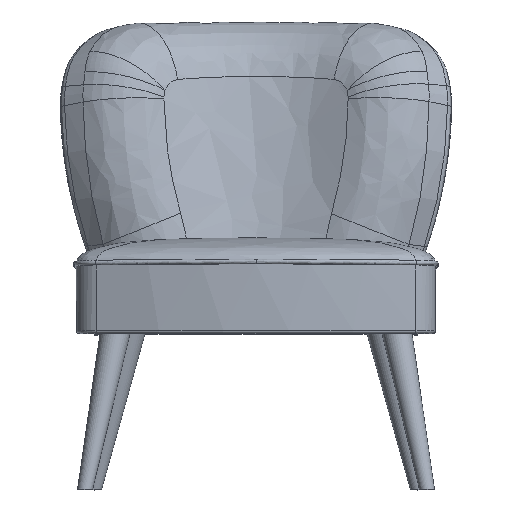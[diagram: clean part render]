
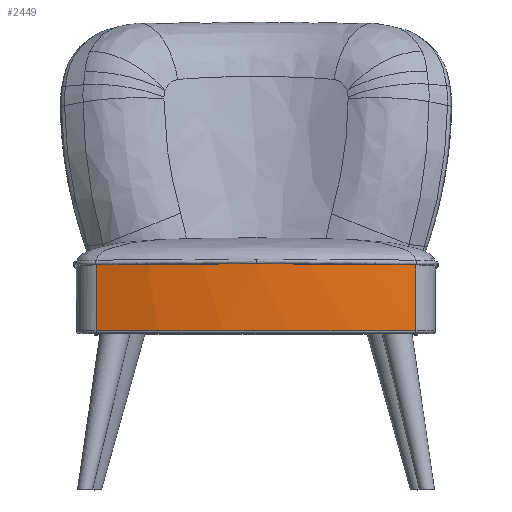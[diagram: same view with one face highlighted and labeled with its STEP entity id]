
A CAD part, top view. The second image highlights one B-rep face of the part: STEP entity #2449.
In plain terms, the highlighted cylindrical face has radius 780 mm (diameter 1560 mm), a partial arc.
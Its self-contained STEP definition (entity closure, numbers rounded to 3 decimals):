
#149 = EDGE_CURVE ( 'NONE', #22677, #821, #521, .T. ) ;
#283 = EDGE_CURVE ( 'NONE', #7090, #13663, #3736, .T. ) ;
#521 = LINE ( 'NONE', #13648, #12751 ) ;
#587 = CARTESIAN_POINT ( 'NONE',  ( -266.572, 374.36, -46.966 ) ) ;
#620 = DIRECTION ( 'NONE',  ( 0., -1., 0. ) ) ;
#821 = VERTEX_POINT ( 'NONE', #16673 ) ;
#972 = CARTESIAN_POINT ( 'NONE',  ( 266.557, 374.36, -46.96 ) ) ;
#1215 = DIRECTION ( 'NONE',  ( 0., 0., -1. ) ) ;
#1326 = VERTEX_POINT ( 'NONE', #16216 ) ;
#1471 = B_SPLINE_CURVE_WITH_KNOTS ( 'NONE', 3,
 ( #22502, #19019, #8947, #21340 ),
 .UNSPECIFIED., .F., .F.,
 ( 4, 4 ),
 ( 0., 0. ),
 .UNSPECIFIED. ) ;
#1477 = CARTESIAN_POINT ( 'NONE',  ( -157.602, 375.441, -16.004 ) ) ;
#1550 = CARTESIAN_POINT ( 'NONE',  ( -266.528, 374.36, -46.949 ) ) ;
#1555 = VERTEX_POINT ( 'NONE', #11865 ) ;
#1848 = VECTOR ( 'NONE', #620, 1000. ) ;
#2449 = ADVANCED_FACE ( 'NONE', ( #9109 ), #16588, .T. ) ;
#2653 = EDGE_CURVE ( 'NONE', #1555, #22677, #1471, .T. ) ;
#2964 = EDGE_CURVE ( 'NONE', #1326, #7090, #15517, .T. ) ;
#3032 = DIRECTION ( 'NONE',  ( 0., -1., 0. ) ) ;
#3162 = CARTESIAN_POINT ( 'NONE',  ( -179.735, 375.27, -20.906 ) ) ;
#3221 = EDGE_LOOP ( 'NONE', ( #16819, #6580, #19403, #18832, #20986, #8037, #13187 ) ) ;
#3239 = CARTESIAN_POINT ( 'NONE',  ( -207.168, 375.022, -27.994 ) ) ;
#3467 = CARTESIAN_POINT ( 'NONE',  ( 266.528, 374.36, -46.949 ) ) ;
#3736 = B_SPLINE_CURVE_WITH_KNOTS ( 'NONE', 3,
 ( #7731, #6095, #16630, #22045, #7876, #14854, #9670, #14784, #7653, #16554, #6017, #20203, #5942, #18337, #9592, #11394 ),
 .UNSPECIFIED., .F., .F.,
 ( 4, 2, 2, 2, 2, 2, 2, 4 ),
 ( 0., 0.068, 0.102, 0.136, 0.17, 0.204, 0.238, 0.272 ),
 .UNSPECIFIED. ) ;
#4413 = CARTESIAN_POINT ( 'NONE',  ( 0., 265., -780. ) ) ;
#4613 = CARTESIAN_POINT ( 'NONE',  ( 266.543, 374.36, -46.955 ) ) ;
#5259 = CARTESIAN_POINT ( 'NONE',  ( -79.209, 375.862, -3.949 ) ) ;
#5942 = CARTESIAN_POINT ( 'NONE',  ( 45.315, 375.957, -1.235 ) ) ;
#6017 = CARTESIAN_POINT ( 'NONE',  ( 79.208, 375.862, -3.949 ) ) ;
#6095 = CARTESIAN_POINT ( 'NONE',  ( 245.223, 374.631, -39.204 ) ) ;
#6580 = ORIENTED_EDGE ( 'NONE', *, *, #2653, .T. ) ;
#6740 = CARTESIAN_POINT ( 'NONE',  ( -212.625, 374.969, -29.518 ) ) ;
#6816 = CARTESIAN_POINT ( 'NONE',  ( -90.477, 375.819, -5.182 ) ) ;
#6974 = CARTESIAN_POINT ( 'NONE',  ( -245.144, 374.623, -39.438 ) ) ;
#7090 = VERTEX_POINT ( 'NONE', #3467 ) ;
#7653 = CARTESIAN_POINT ( 'NONE',  ( 112.951, 375.716, -8.138 ) ) ;
#7731 = CARTESIAN_POINT ( 'NONE',  ( 266.528, 374.36, -46.949 ) ) ;
#7846 = B_SPLINE_CURVE_WITH_KNOTS ( 'NONE', 3,
 ( #13940, #17488, #10382, #5259, #6816, #10467, #8597, #13785, #1477, #3162, #20978, #3239, #6740, #22760, #17641, #6974, #12176, #1550 ),
 .UNSPECIFIED., .F., .F.,
 ( 4, 2, 2, 2, 2, 2, 2, 2, 4 ),
 ( 0., 0.068, 0.102, 0.136, 0.17, 0.204, 0.221, 0.238, 0.272 ),
 .UNSPECIFIED. ) ;
#7876 = CARTESIAN_POINT ( 'NONE',  ( 179.732, 375.27, -20.905 ) ) ;
#8037 = ORIENTED_EDGE ( 'NONE', *, *, #2964, .T. ) ;
#8261 = DIRECTION ( 'NONE',  ( 0., -1., 0. ) ) ;
#8281 = VERTEX_POINT ( 'NONE', #17637 ) ;
#8597 = CARTESIAN_POINT ( 'NONE',  ( -124.155, 375.656, -9.861 ) ) ;
#8947 = CARTESIAN_POINT ( 'NONE',  ( -266.557, 374.36, -46.96 ) ) ;
#9109 = FACE_OUTER_BOUND ( 'NONE', #3221, .T. ) ;
#9474 = EDGE_CURVE ( 'NONE', #1326, #8281, #18744, .T. ) ;
#9592 = CARTESIAN_POINT ( 'NONE',  ( 11.335, 376., 0. ) ) ;
#9670 = CARTESIAN_POINT ( 'NONE',  ( 146.478, 375.518, -13.793 ) ) ;
#10382 = CARTESIAN_POINT ( 'NONE',  ( -45.335, 375.965, -0.989 ) ) ;
#10467 = CARTESIAN_POINT ( 'NONE',  ( -112.953, 375.716, -8.139 ) ) ;
#11394 = CARTESIAN_POINT ( 'NONE',  ( 0., 376., 0. ) ) ;
#11865 = CARTESIAN_POINT ( 'NONE',  ( -266.528, 374.36, -46.949 ) ) ;
#12176 = CARTESIAN_POINT ( 'NONE',  ( -255.875, 374.495, -43.076 ) ) ;
#12751 = VECTOR ( 'NONE', #3032, 1000. ) ;
#13187 = ORIENTED_EDGE ( 'NONE', *, *, #283, .T. ) ;
#13648 = CARTESIAN_POINT ( 'NONE',  ( -266.572, 1718.723, -46.966 ) ) ;
#13663 = VERTEX_POINT ( 'NONE', #18313 ) ;
#13785 = CARTESIAN_POINT ( 'NONE',  ( -146.482, 375.518, -13.794 ) ) ;
#13938 = EDGE_CURVE ( 'NONE', #821, #8281, #22386, .T. ) ;
#13940 = CARTESIAN_POINT ( 'NONE',  ( 0., 376., 0. ) ) ;
#14489 = CARTESIAN_POINT ( 'NONE',  ( 266.572, 1718.723, -46.966 ) ) ;
#14547 = EDGE_CURVE ( 'NONE', #13663, #1555, #7846, .T. ) ;
#14784 = CARTESIAN_POINT ( 'NONE',  ( 124.156, 375.656, -9.861 ) ) ;
#14854 = CARTESIAN_POINT ( 'NONE',  ( 157.6, 375.441, -16.003 ) ) ;
#15144 = CARTESIAN_POINT ( 'NONE',  ( 266.528, 374.36, -46.949 ) ) ;
#15517 = B_SPLINE_CURVE_WITH_KNOTS ( 'NONE', 3,
 ( #16771, #972, #4613, #15144 ),
 .UNSPECIFIED., .F., .F.,
 ( 4, 4 ),
 ( 0., 0. ),
 .UNSPECIFIED. ) ;
#15612 = CARTESIAN_POINT ( 'NONE',  ( 0., 1718.723, -780. ) ) ;
#16216 = CARTESIAN_POINT ( 'NONE',  ( 266.572, 374.36, -46.966 ) ) ;
#16554 = CARTESIAN_POINT ( 'NONE',  ( 90.478, 375.819, -5.183 ) ) ;
#16588 = CYLINDRICAL_SURFACE ( 'NONE', #17993, 780. ) ;
#16630 = CARTESIAN_POINT ( 'NONE',  ( 223.587, 374.869, -32.389 ) ) ;
#16673 = CARTESIAN_POINT ( 'NONE',  ( -266.572, 265., -46.966 ) ) ;
#16771 = CARTESIAN_POINT ( 'NONE',  ( 266.572, 374.36, -46.966 ) ) ;
#16795 = DIRECTION ( 'NONE',  ( 0., 0., -1. ) ) ;
#16819 = ORIENTED_EDGE ( 'NONE', *, *, #14547, .T. ) ;
#17211 = AXIS2_PLACEMENT_3D ( 'NONE', #4413, #20448, #16795 ) ;
#17488 = CARTESIAN_POINT ( 'NONE',  ( -22.671, 376., 0. ) ) ;
#17637 = CARTESIAN_POINT ( 'NONE',  ( 266.572, 265., -46.966 ) ) ;
#17641 = CARTESIAN_POINT ( 'NONE',  ( -228.93, 374.801, -34.331 ) ) ;
#17993 = AXIS2_PLACEMENT_3D ( 'NONE', #15612, #8261, #1215 ) ;
#18313 = CARTESIAN_POINT ( 'NONE',  ( 0., 376., 0. ) ) ;
#18337 = CARTESIAN_POINT ( 'NONE',  ( 22.669, 375.991, -0.247 ) ) ;
#18744 = LINE ( 'NONE', #14489, #1848 ) ;
#18832 = ORIENTED_EDGE ( 'NONE', *, *, #13938, .T. ) ;
#19019 = CARTESIAN_POINT ( 'NONE',  ( -266.543, 374.36, -46.955 ) ) ;
#19403 = ORIENTED_EDGE ( 'NONE', *, *, #149, .T. ) ;
#20203 = CARTESIAN_POINT ( 'NONE',  ( 56.628, 375.931, -1.976 ) ) ;
#20448 = DIRECTION ( 'NONE',  ( 0., 1., 0. ) ) ;
#20978 = CARTESIAN_POINT ( 'NONE',  ( -190.745, 375.176, -23.598 ) ) ;
#20986 = ORIENTED_EDGE ( 'NONE', *, *, #9474, .F. ) ;
#21340 = CARTESIAN_POINT ( 'NONE',  ( -266.572, 374.36, -46.966 ) ) ;
#22045 = CARTESIAN_POINT ( 'NONE',  ( 190.742, 375.176, -23.597 ) ) ;
#22386 = CIRCLE ( 'NONE', #17211, 780. ) ;
#22502 = CARTESIAN_POINT ( 'NONE',  ( -266.528, 374.36, -46.949 ) ) ;
#22677 = VERTEX_POINT ( 'NONE', #587 ) ;
#22760 = CARTESIAN_POINT ( 'NONE',  ( -223.506, 374.858, -32.687 ) ) ;
